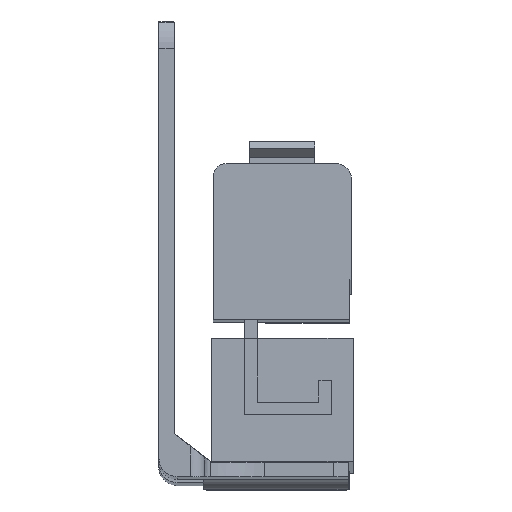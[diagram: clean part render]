
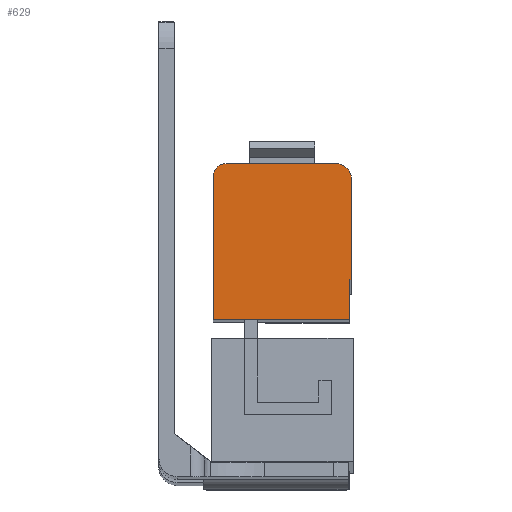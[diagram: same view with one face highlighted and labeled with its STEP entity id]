
A CAD part, front view. The second image highlights one B-rep face of the part: STEP entity #629.
In plain terms, the highlighted planar face has unit normal (0, -1, 0.007).
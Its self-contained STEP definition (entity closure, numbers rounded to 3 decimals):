
#295 = EDGE_LOOP ( 'NONE', ( #2411, #2410, #2409, #2408, #2407, #2406, #2405, #2404 ) ) ;
#629 = ADVANCED_FACE ( 'NONE', ( #2548 ), #1008, .T. ) ;
#1008 = PLANE ( 'NONE',  #4536 ) ;
#1009 = CARTESIAN_POINT ( 'NONE',  ( 9.25, -21.644, -6.303 ) ) ;
#1010 = DIRECTION ( 'NONE',  ( 0., -1., 0.007 ) ) ;
#1011 = DIRECTION ( 'NONE',  ( 0., -0.007, -1. ) ) ;
#1431 = CARTESIAN_POINT ( 'NONE',  ( 7.5, -21.644, -6.303 ) ) ;
#1445 = CARTESIAN_POINT ( 'NONE',  ( 7.5, -21.782, -26.052 ) ) ;
#1461 = CARTESIAN_POINT ( 'NONE',  ( 9.25, -21.632, -4.553 ) ) ;
#1471 = CARTESIAN_POINT ( 'NONE',  ( 26.25, -21.744, -20.552 ) ) ;
#1475 = CARTESIAN_POINT ( 'NONE',  ( 24.45, -21.632, -4.553 ) ) ;
#1485 = CARTESIAN_POINT ( 'NONE',  ( 26.5, -21.744, -20.552 ) ) ;
#1490 = CARTESIAN_POINT ( 'NONE',  ( 26.5, -21.646, -6.603 ) ) ;
#1498 = CARTESIAN_POINT ( 'NONE',  ( 26.25, -21.782, -26.052 ) ) ;
#2404 = ORIENTED_EDGE ( 'NONE', *, *, #4451, .T. ) ;
#2405 = ORIENTED_EDGE ( 'NONE', *, *, #4455, .T. ) ;
#2406 = ORIENTED_EDGE ( 'NONE', *, *, #4454, .T. ) ;
#2407 = ORIENTED_EDGE ( 'NONE', *, *, #4450, .T. ) ;
#2408 = ORIENTED_EDGE ( 'NONE', *, *, #4446, .T. ) ;
#2409 = ORIENTED_EDGE ( 'NONE', *, *, #4437, .T. ) ;
#2410 = ORIENTED_EDGE ( 'NONE', *, *, #4444, .T. ) ;
#2411 = ORIENTED_EDGE ( 'NONE', *, *, #4442, .T. ) ;
#2548 = FACE_OUTER_BOUND ( 'NONE', #295, .T. ) ;
#3283 = VERTEX_POINT ( 'NONE', #1431 ) ;
#3297 = VERTEX_POINT ( 'NONE', #1445 ) ;
#3313 = VERTEX_POINT ( 'NONE', #1461 ) ;
#3323 = VERTEX_POINT ( 'NONE', #1471 ) ;
#3327 = VERTEX_POINT ( 'NONE', #1475 ) ;
#3337 = VERTEX_POINT ( 'NONE', #1485 ) ;
#3342 = VERTEX_POINT ( 'NONE', #1490 ) ;
#3350 = VERTEX_POINT ( 'NONE', #1498 ) ;
#3742 = CARTESIAN_POINT ( 'NONE',  ( 9.25, -21.632, -4.553 ) ) ;
#3743 = DIRECTION ( 'NONE',  ( -1., 0., 0. ) ) ;
#3752 = CARTESIAN_POINT ( 'NONE',  ( 26.5, -21.646, -6.603 ) ) ;
#3753 = DIRECTION ( 'NONE',  ( 0., 0.007, 1. ) ) ;
#3756 = CARTESIAN_POINT ( 'NONE',  ( 24.45, -21.646, -6.603 ) ) ;
#3757 = DIRECTION ( 'NONE',  ( 0., -1., 0.007 ) ) ;
#3758 = DIRECTION ( 'NONE',  ( 0., 0.007, 1. ) ) ;
#3761 = CARTESIAN_POINT ( 'NONE',  ( 9.25, -21.644, -6.303 ) ) ;
#3762 = DIRECTION ( 'NONE',  ( 0., -1., 0.007 ) ) ;
#3763 = DIRECTION ( 'NONE',  ( 0., -0.007, -1. ) ) ;
#3770 = CARTESIAN_POINT ( 'NONE',  ( 7.5, -21.644, -6.303 ) ) ;
#3771 = DIRECTION ( 'NONE',  ( 0., -0.007, -1. ) ) ;
#3772 = CARTESIAN_POINT ( 'NONE',  ( 7.5, -21.744, -20.552 ) ) ;
#3773 = DIRECTION ( 'NONE',  ( 1., 0., 0. ) ) ;
#3778 = CARTESIAN_POINT ( 'NONE',  ( 26.25, -21.782, -26.052 ) ) ;
#3779 = DIRECTION ( 'NONE',  ( 1., 0., 0. ) ) ;
#3780 = CARTESIAN_POINT ( 'NONE',  ( 26.25, -21.782, -26.052 ) ) ;
#3781 = DIRECTION ( 'NONE',  ( 0., 0.007, 1. ) ) ;
#3986 = LINE ( 'NONE', #3742, #3987 ) ;
#3987 = VECTOR ( 'NONE', #3743, 1000. ) ;
#3996 = LINE ( 'NONE', #3752, #3997 ) ;
#3997 = VECTOR ( 'NONE', #3753, 1000. ) ;
#4001 = CIRCLE ( 'NONE', #4730, 2.05 ) ;
#4004 = CIRCLE ( 'NONE', #4731, 1.75 ) ;
#4010 = LINE ( 'NONE', #3770, #4011 ) ;
#4011 = VECTOR ( 'NONE', #3771, 1000. ) ;
#4012 = LINE ( 'NONE', #3772, #4013 ) ;
#4013 = VECTOR ( 'NONE', #3773, 1000. ) ;
#4018 = LINE ( 'NONE', #3778, #4019 ) ;
#4019 = VECTOR ( 'NONE', #3779, 1000. ) ;
#4020 = LINE ( 'NONE', #3780, #4021 ) ;
#4021 = VECTOR ( 'NONE', #3781, 1000. ) ;
#4437 = EDGE_CURVE ( 'NONE', #3327, #3313, #3986, .T. ) ;
#4442 = EDGE_CURVE ( 'NONE', #3337, #3342, #3996, .T. ) ;
#4444 = EDGE_CURVE ( 'NONE', #3342, #3327, #4001, .T. ) ;
#4446 = EDGE_CURVE ( 'NONE', #3313, #3283, #4004, .T. ) ;
#4450 = EDGE_CURVE ( 'NONE', #3283, #3297, #4010, .T. ) ;
#4451 = EDGE_CURVE ( 'NONE', #3323, #3337, #4012, .T. ) ;
#4454 = EDGE_CURVE ( 'NONE', #3297, #3350, #4018, .T. ) ;
#4455 = EDGE_CURVE ( 'NONE', #3350, #3323, #4020, .T. ) ;
#4536 = AXIS2_PLACEMENT_3D ( 'NONE', #1009, #1010, #1011 ) ;
#4730 = AXIS2_PLACEMENT_3D ( 'NONE', #3756, #3757, #3758 ) ;
#4731 = AXIS2_PLACEMENT_3D ( 'NONE', #3761, #3762, #3763 ) ;
